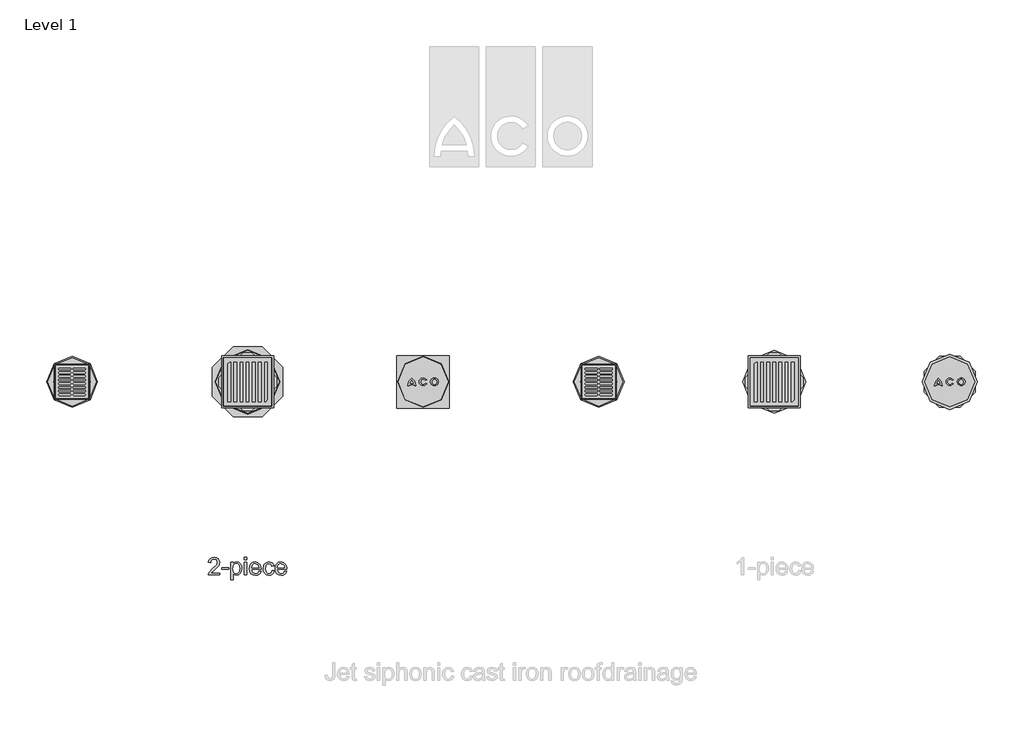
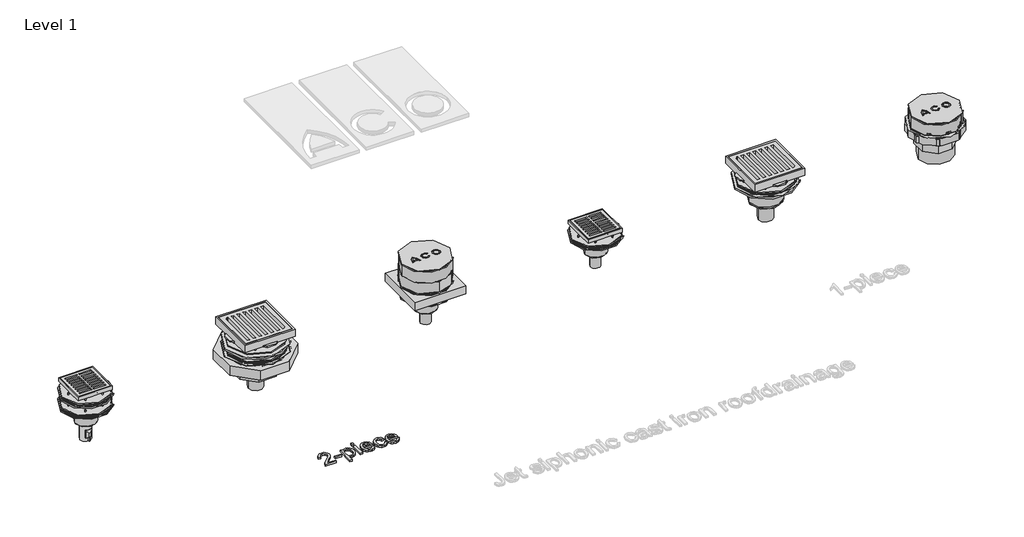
# One storey, part 1 of 2: 35 sanitary terminals, 2 unitary equipment elements, 1 proxy.
"""IFC4 building model written with IfcOpenShell, lengths in millimetres."""

from ifc_helpers import new_model, si_unit, origin, origin_with_axes, place, context, project, spatial, polyline, outline, extrude, transform, mapped, element, save
from components import std_ecaa86e3, dn50_1aebd825, std_82fbe6ac, std_e8784c35, std_f6b0b17c, std_5ca6e648, std_9cb41771, std_nested_059c46f9, std_nested_134ac697, std_nested_9174bdc3, std_nested_e6102d04, std_nested_2427ce80, std_nested_6056e155, std_nested_ca8b4cce, std_nested_2ed47152, std_nested_3392732c, std_nested_2f0308f6, std_nested_7d449d44, std_nested_2c1d07d8, std_nested_8367c126

model = new_model("IFC4")

# Units and contexts
model_context = context("Model", 3, world=origin())
ifc_project = project(units=[si_unit("LENGTHUNIT", "METRE", prefix="MILLI")], contexts=[model_context])

# Site, building, storey
site = spatial("IfcSite", under=ifc_project)
building = spatial("IfcBuilding", under=site)
storey = spatial("IfcBuildingStorey", under=building, Name="Level 1", Elevation=0.0)

# Proxy
placement = place(None, origin())
element("IfcBuildingElementProxy", 1, Name="100mm ACO", ObjectType="100mm ACO", at=placement, inside=storey, context=model_context, shape_type="SweptSolid", body=[
    extrude(outline(polyline([(-533.3333333, -100.0), (-600.0, -100.0), (-594.0393519, -84.4039352), (-572.0196759, -62.7893519), (-554.2534722, -45.4571759), (-548.2855903, -36.4293981), (-546.2962963, -27.34375), (-551.7216435, -14.380787), (-565.4224537, -9.2592593), (-579.4560185, -14.3663194), (-583.7239583, -20.7356771), (-585.1851852, -29.6296296), (-598.1481481, -28.2407407), (-595.0086806, -16.1385995), (-587.962963, -7.2627315), (-577.7488426, -1.8156829), (-565.1041667, 0.0), (-551.7469618, -2.0869502), (-541.7100694, -8.3478009), (-535.4275174, -17.5600405), (-533.3333333, -28.5011574), (-535.083912, -38.4042245), (-540.3356481, -48.4375), (-567.7662037, -75.9548611), (-583.3333333, -90.7407407), (-533.3333333, -90.7407407), (-533.3333333, -100.0)])), origin_with_axes(), (0.0, 0.0, 1.0), 10.0),
    extrude(outline(polyline([(-483.3333333, -66.6666667), (-522.2222222, -66.6666667), (-522.2222222, -57.4074074), (-483.3333333, -57.4074074), (-483.3333333, -66.6666667)])), origin_with_axes(), (0.0, 0.0, 1.0), 10.0),
    extrude(outline(polyline([(-457.2771991, -36.4872685), (-448.8208912, -28.5662616), (-437.1527778, -25.9259259), (-424.8263889, -28.515625), (-415.3935185, -36.2847222), (-409.4039352, -48.2132523), (-407.4074074, -63.28125), (-409.6643519, -79.1702836), (-416.4351852, -91.4207176), (-426.490162, -99.2440683), (-438.599537, -101.8518519), (-448.9728009, -99.7251157), (-457.0601852, -93.3449074), (-457.4074074, -127.7777778), (-470.3703704, -127.7777778), (-470.3703704, -27.7777778), (-457.4074074, -27.7777778), (-457.2771991, -36.4872685)]), holes=[polyline([(-440.0173611, -92.5925926), (-432.244647, -90.766059), (-425.9403935, -85.2864583), (-421.7628762, -76.1899595), (-420.3703704, -63.5127315), (-421.7122396, -51.4359086), (-425.7378472, -42.5202546), (-431.854022, -37.0189525), (-439.4675926, -35.1851852), (-447.3488137, -37.2287326), (-453.6892361, -43.359375), (-457.8667535, -52.7452257), (-459.2592593, -64.5543981), (-457.9246238, -76.66739), (-453.9207176, -85.4600694), (-447.7756076, -90.8094618), (-440.0173611, -92.5925926)])]), origin_with_axes(), (0.0, 0.0, 1.0), 10.0),
    extrude(outline(polyline([(-379.6296296, -100.0), (-392.5925926, -100.0), (-392.5925926, -27.7777778), (-379.6296296, -27.7777778), (-379.6296296, -100.0)])), origin_with_axes(), (0.0, 0.0, 1.0), 10.0),
    extrude(outline(polyline([(-379.6296296, -12.962963), (-392.5925926, -12.962963), (-392.5925926, 0.0), (-379.6296296, 0.0), (-379.6296296, -12.962963)])), origin_with_axes(), (0.0, 0.0, 1.0), 10.0),
    extrude(outline(polyline([(-298.1481481, -66.6666667), (-351.8518519, -66.6666667), (-349.7793692, -77.7922454), (-345.0665509, -85.9375), (-338.2848669, -90.9288194), (-330.005787, -92.5925926), (-318.3304398, -88.9033565), (-311.1111111, -77.7777778), (-298.1481481, -79.2824074), (-302.5245949, -88.9033565), (-309.4618056, -96.0069444), (-318.7065972, -100.390625), (-330.005787, -101.8518519), (-344.5927373, -99.3453414), (-355.5989583, -91.8258102), (-362.5108507, -79.9660012), (-364.8148148, -64.4386574), (-362.5940394, -48.900463), (-355.931713, -36.6030093), (-345.2329282, -28.5951968), (-330.9027778, -25.9259259), (-315.6828704, -29.3836806), (-303.2552083, -41.1603009), (-299.4249132, -51.6963252), (-298.1481481, -66.6666667)]), holes=[polyline([(-311.1111111, -57.4074074), (-313.1944444, -47.2511574), (-317.9398148, -40.3935185), (-331.2210648, -35.1851852), (-339.0769676, -36.7332176), (-345.3993056, -41.3773148), (-351.8518519, -57.4074074), (-311.1111111, -57.4074074)])]), origin_with_axes(), (0.0, 0.0, 1.0), 10.0),
    extrude(outline(polyline([(-222.2222222, -75.5497685), (-226.2514468, -87.3553241), (-233.4201389, -95.5150463), (-242.7445023, -100.2676505), (-253.2407407, -101.8518519), (-267.5564236, -99.2621528), (-278.2118056, -91.4930556), (-284.8307292, -79.4487847), (-287.037037, -64.0335648), (-282.0023148, -41.3483796), (-269.4010417, -29.3836806), (-253.5011574, -25.9259259), (-234.0422454, -31.5827546), (-227.5065104, -38.566985), (-224.0740741, -48.2060185), (-237.037037, -50.0), (-242.9398148, -38.9033565), (-253.3564815, -35.1851852), (-262.3119213, -37.0695891), (-268.8078704, -42.7228009), (-272.7575231, -51.7541956), (-274.0740741, -63.7731481), (-272.7539063, -76.0018808), (-268.7934028, -85.083912), (-262.3444734, -90.7154225), (-253.5590278, -92.5925926), (-240.9577546, -87.962963), (-235.1851852, -74.0740741), (-222.2222222, -75.5497685)])), origin_with_axes(), (0.0, 0.0, 1.0), 10.0),
    extrude(outline(polyline([(-151.8518519, -66.6666667), (-205.5555556, -66.6666667), (-203.4830729, -77.7922454), (-198.7702546, -85.9375), (-191.9885706, -90.9288194), (-183.7094907, -92.5925926), (-172.0341435, -88.9033565), (-164.8148148, -77.7777778), (-151.8518519, -79.2824074), (-156.2282986, -88.9033565), (-163.1655093, -96.0069444), (-172.4103009, -100.390625), (-183.7094907, -101.8518519), (-198.296441, -99.3453414), (-209.302662, -91.8258102), (-216.2145544, -79.9660012), (-218.5185185, -64.4386574), (-216.2977431, -48.900463), (-209.6354167, -36.6030093), (-198.9366319, -28.5951968), (-184.6064815, -25.9259259), (-169.3865741, -29.3836806), (-156.958912, -41.1603009), (-153.1286169, -51.6963252), (-151.8518519, -66.6666667)]), holes=[polyline([(-164.8148148, -57.4074074), (-166.8981481, -47.2511574), (-171.6435185, -40.3935185), (-184.9247685, -35.1851852), (-192.7806713, -36.7332176), (-199.1030093, -41.3773148), (-205.5555556, -57.4074074), (-164.8148148, -57.4074074)])]), origin_with_axes(), (0.0, 0.0, 1.0), 10.0),
])

# Sanitary terminals
std_shape = std_ecaa86e3(model_context)
element("IfcSanitaryTerminal", 2, ObjectType="PF_GEN_UN_double body with gravel trap Passavant Jet_ACO : DN50", at=placement, inside=storey, context=model_context, shape_type="MappedRepresentation", body=[
    mapped(std_shape, transform((625.0, 1000.0, 0.0), x_axis=(1.0, 0.0, 0.0), y_axis=(0.0, 1.0, 0.0), z_axis=(0.0, 0.0, 1.0))),
])
dn50_shape = dn50_1aebd825(model_context)
element("IfcSanitaryTerminal", 3, ObjectType="PF_GEN_UN_single body with gravel trap Passavant Jet_ACO : DN50", at=placement, inside=storey, context=model_context, shape_type="MappedRepresentation", body=[
    mapped(dn50_shape, transform((3625.0, 1000.0, 0.0), x_axis=(1.0, 0.0, 0.0), y_axis=(0.0, 1.0, 0.0), z_axis=(0.0, 0.0, 1.0))),
])
std_2_shape = std_82fbe6ac(model_context)
element("IfcSanitaryTerminal", 4, ObjectType="PF_GEN_UN_single body with grating DN50 Passavant Jet_ACO : std", at=placement, inside=storey, context=model_context, shape_type="MappedRepresentation", body=[
    mapped(std_2_shape, transform((1625.0, 1000.0, 0.0), x_axis=(1.0, 0.0, 0.0), y_axis=(0.0, 1.0, 0.0), z_axis=(0.0, 0.0, 1.0))),
])
std_3_shape = std_e8784c35(model_context)
element("IfcSanitaryTerminal", 5, ObjectType="PF_GEN_UN_single body with grating DN80 Passavant Jet_ACO : std", at=placement, inside=storey, context=model_context, shape_type="MappedRepresentation", body=[
    mapped(std_3_shape, transform((2625.0, 1000.0, 0.0), x_axis=(1.0, 0.0, 0.0), y_axis=(0.0, 1.0, 0.0), z_axis=(0.0, 0.0, 1.0))),
])
std_4_shape = std_f6b0b17c(model_context)
element("IfcSanitaryTerminal", 6, ObjectType="ZZZ_do_not_use_PF_CI_WPB_top frame with grating for Passavant Jet_ACO : std", at=placement, inside=storey, context=model_context, shape_type="MappedRepresentation", body=[
    mapped(std_4_shape, transform((1625.0, 1000.0, 15.5), x_axis=(1.0, 0.0, 0.0), y_axis=(0.0, 1.0, 0.0), z_axis=(0.0, 0.0, 1.0))),
])
std_5_shape = std_5ca6e648(model_context)
element("IfcSanitaryTerminal", 7, ObjectType="ZZZ_do_not_use_PF_CI_WPB_top frame with grating for Passavant Jet_ACO : std", at=placement, inside=storey, context=model_context, shape_type="MappedRepresentation", body=[
    mapped(std_5_shape, transform((-375.0, 1000.0, 65.5), x_axis=(1.0, 0.0, 0.0), y_axis=(0.0, 1.0, 0.0), z_axis=(0.0, 0.0, 1.0))),
])
element("IfcSanitaryTerminal", 8, ObjectType="ZZZ_do_not_use_PF_CI_WPB_top frame with grating for Passavant Jet_ACO : std", at=placement, inside=storey, context=model_context, shape_type="MappedRepresentation", body=[
    mapped(std_5_shape, transform((2625.0, 1000.0, 15.5), x_axis=(1.0, 0.0, 0.0), y_axis=(0.0, 1.0, 0.0), z_axis=(0.0, 0.0, 1.0))),
])
element("IfcSanitaryTerminal", 9, ObjectType="ZZZ_do_not_use_PF_CI_WPB_top frame with grating for Passavant Jet_ACO : std", at=placement, inside=storey, context=model_context, shape_type="MappedRepresentation", body=[
    mapped(std_4_shape, transform((-1375.0, 1000.0, 85.5), x_axis=(1.0, 0.0, 0.0), y_axis=(0.0, 1.0, 0.0), z_axis=(0.0, 0.0, 1.0))),
])
element("IfcSanitaryTerminal", 10, ObjectType="PF_GEN_UN_double body with grating DN50 Passavant Jet_ACO : std", at=placement, inside=storey, context=model_context, shape_type="MappedRepresentation", body=[
    mapped(std_shape, transform((-1375.0, 1000.0, 0.0), x_axis=(1.0, 0.0, 0.0), y_axis=(0.0, 1.0, 0.0), z_axis=(0.0, 0.0, 1.0))),
])
std_6_shape = std_9cb41771(model_context)
element("IfcSanitaryTerminal", 11, ObjectType="PF_GEN_UN_double body with grating DN80 Passavant Jet_ACO : std", at=placement, inside=storey, context=model_context, shape_type="MappedRepresentation", body=[
    mapped(std_6_shape, transform((-375.0, 1000.0, 0.0), x_axis=(1.0, 0.0, 0.0), y_axis=(0.0, 1.0, 0.0), z_axis=(0.0, 0.0, 1.0))),
])
std_nested_shape = std_nested_059c46f9(model_context)
element("IfcSanitaryTerminal", 12, ObjectType="ZZZ_do not use_PF_CI_WPB_lower section for Passavant Jet_ACO : std (nested)", at=placement, inside=storey, context=model_context, shape_type="MappedRepresentation", body=[
    mapped(std_nested_shape, transform((-1375.0, 1000.0, 0.0), x_axis=(1.0, 0.0, 0.0), y_axis=(0.0, 1.0, 0.0), z_axis=(0.0, 0.0, 1.0))),
])
element("IfcSanitaryTerminal", 13, ObjectType="ZZZ_do not use_PF_CI_WPB_lower section for Passavant Jet_ACO : std (nested)", at=placement, inside=storey, context=model_context, shape_type="MappedRepresentation", body=[
    mapped(std_nested_shape, transform((3625.0, 1000.0, 0.0), x_axis=(1.0, 0.0, 0.0), y_axis=(0.0, 1.0, 0.0), z_axis=(0.0, 0.0, 1.0))),
])
std_nested_2_shape = std_nested_134ac697(model_context)
element("IfcSanitaryTerminal", 14, ObjectType="ZZZ_do not use_PF_ST_WPB_levelling height for Passavant Jet_ACO : std (nested)", at=placement, inside=storey, context=model_context, shape_type="MappedRepresentation", body=[
    mapped(std_nested_2_shape, transform((625.0, 1000.0, 75.0), x_axis=(0.0, 1.0, 0.0), y_axis=(-1.0, 0.0, 0.0), z_axis=(0.0, 0.0, 1.0))),
])
std_nested_3_shape = std_nested_9174bdc3(model_context)
element("IfcSanitaryTerminal", 15, ObjectType="ZZZ_do not use_PF_ST_WPB_gravel trap cover for Passavant Jet_ACO : std (nested)", at=placement, inside=storey, context=model_context, shape_type="MappedRepresentation", body=[
    mapped(std_nested_3_shape, transform((625.0, 1000.0, 140.0), x_axis=(1.0, 0.0, 0.0), y_axis=(0.0, 1.0, 0.0), z_axis=(0.0, 0.0, 1.0))),
])
element("IfcSanitaryTerminal", 16, ObjectType="ZZZ_do not use_PF_ST_WPB_gravel trap cover for Passavant Jet_ACO : std (nested)", at=placement, inside=storey, context=model_context, shape_type="MappedRepresentation", body=[
    mapped(std_nested_3_shape, transform((3625.0, 1000.0, 5.0), x_axis=(1.0, 0.0, 0.0), y_axis=(0.0, 1.0, 0.0), z_axis=(0.0, 0.0, 1.0))),
])
std_nested_4_shape = std_nested_e6102d04(model_context)
element("IfcSanitaryTerminal", 17, ObjectType="ZZZ_do not use_PF_CG_WPB_insulating body lower section for Passavant Jet_ACO : std (nested)", at=placement, inside=storey, context=model_context, shape_type="MappedRepresentation", body=[
    mapped(std_nested_4_shape, transform((3625.0, 1000.0, -5.0), x_axis=(1.0, 0.0, 0.0), y_axis=(0.0, 1.0, 0.0), z_axis=(0.0, 0.0, 1.0))),
])
std_nested_5_shape = std_nested_2427ce80(model_context)
element("IfcSanitaryTerminal", 18, ObjectType="ZZZ_do not use_PF_CG_WPB_compensation element for Passavant Jet_ACO : std (nested)", at=placement, inside=storey, context=model_context, shape_type="MappedRepresentation", body=[
    mapped(std_nested_5_shape, transform((625.0, 1000.0, 15.5), x_axis=(1.0, 0.0, 0.0), y_axis=(0.0, 1.0, 0.0), z_axis=(0.0, 0.0, 1.0))),
])
std_nested_6_shape = std_nested_6056e155(model_context)
element("IfcSanitaryTerminal", 19, ObjectType="ZZZ_do not use_PF_CI_WPB_upper part for Passavant Jet_ACO : std (nested)", at=placement, inside=storey, context=model_context, shape_type="MappedRepresentation", body=[
    mapped(std_nested_6_shape, transform((-1375.0, 1000.0, 70.0), x_axis=(1.0, 0.0, 0.0), y_axis=(0.0, 1.0, 0.0), z_axis=(0.0, 0.0, 1.0))),
])
element("IfcSanitaryTerminal", 20, ObjectType="ZZZ_do not use_PF_CI_WPB_upper part for Passavant Jet_ACO : std (nested)", at=placement, inside=storey, context=model_context, shape_type="MappedRepresentation", body=[
    mapped(std_nested_6_shape, transform((625.0, 1000.0, 70.0), x_axis=(1.0, 0.0, 0.0), y_axis=(0.0, 1.0, 0.0), z_axis=(0.0, 0.0, 1.0))),
])
std_nested_7_shape = std_nested_ca8b4cce(model_context)
element("IfcSanitaryTerminal", 21, ObjectType="ZZZ_do not use_PF_CI_WPB_upper part for Passavant Jet_ACO : std (nested)", at=placement, inside=storey, context=model_context, shape_type="MappedRepresentation", body=[
    mapped(std_nested_7_shape, transform((-375.0, 1000.0, 50.0), x_axis=(1.0, 0.0, 0.0), y_axis=(0.0, 1.0, 0.0), z_axis=(0.0, 0.0, 1.0))),
])
std_nested_8_shape = std_nested_2ed47152(model_context)
element("IfcSanitaryTerminal", 22, ObjectType="ZZZ_do not use_PF_ST_WPB_pilot tube for Passavant Jet_ACO : std (nested)", at=placement, inside=storey, context=model_context, shape_type="MappedRepresentation", body=[
    mapped(std_nested_8_shape, transform((625.0, 1000.0, 85.5), x_axis=(0.0, 1.0, 0.0), y_axis=(-1.0, 0.0, 0.0), z_axis=(0.0, 0.0, 1.0))),
])
std_nested_9_shape = std_nested_3392732c(model_context)
element("IfcSanitaryTerminal", 23, ObjectType="ZZZ_do not use_PF_CG_WPB_insulating body lower section for Passavant Jet_ACO : std (nested)", at=placement, inside=storey, context=model_context, shape_type="MappedRepresentation", body=[
    mapped(std_nested_9_shape, transform((-375.0, 1000.0, 0.0), x_axis=(1.0, 0.0, 0.0), y_axis=(0.0, 1.0, 0.0), z_axis=(0.0, 0.0, 1.0))),
])
std_nested_10_shape = std_nested_2f0308f6(model_context)
element("IfcSanitaryTerminal", 24, ObjectType="ZZZ_do not use_PF_GEN_WPB_flange seal for Passavant Jet_ACO : std (nested)", at=placement, inside=storey, context=model_context, shape_type="MappedRepresentation", body=[
    mapped(std_nested_10_shape, transform((-1375.0, 1000.0, 0.0), x_axis=(1.0, 0.0, 0.0), y_axis=(0.0, 1.0, 0.0), z_axis=(0.0, 0.0, 1.0))),
])
element("IfcSanitaryTerminal", 25, ObjectType="ZZZ_do not use_PF_GEN_WPB_flange seal for Passavant Jet_ACO : std (nested)", at=placement, inside=storey, context=model_context, shape_type="MappedRepresentation", body=[
    mapped(std_nested_10_shape, transform((-1375.0, 1000.0, 70.0), x_axis=(1.0, 0.0, 0.0), y_axis=(0.0, 1.0, 0.0), z_axis=(0.0, 0.0, 1.0))),
])
element("IfcSanitaryTerminal", 26, ObjectType="ZZZ_do not use_PF_GEN_WPB_flange seal for Passavant Jet_ACO : std (nested)", at=placement, inside=storey, context=model_context, shape_type="MappedRepresentation", body=[
    mapped(std_nested_10_shape, transform((-375.0, 1000.0, 50.0), x_axis=(1.0, 0.0, 0.0), y_axis=(0.0, 1.0, 0.0), z_axis=(0.0, 0.0, 1.0))),
])
element("IfcSanitaryTerminal", 27, ObjectType="ZZZ_do not use_PF_GEN_WPB_flange seal for Passavant Jet_ACO : std (nested)", at=placement, inside=storey, context=model_context, shape_type="MappedRepresentation", body=[
    mapped(std_nested_10_shape, transform((625.0, 1000.0, 0.0), x_axis=(1.0, 0.0, 0.0), y_axis=(0.0, 1.0, 0.0), z_axis=(0.0, 0.0, 1.0))),
])
element("IfcSanitaryTerminal", 28, ObjectType="ZZZ_do not use_PF_GEN_WPB_flange seal for Passavant Jet_ACO : std (nested)", at=placement, inside=storey, context=model_context, shape_type="MappedRepresentation", body=[
    mapped(std_nested_10_shape, transform((625.0, 1000.0, 70.0), x_axis=(1.0, 0.0, 0.0), y_axis=(0.0, 1.0, 0.0), z_axis=(0.0, 0.0, 1.0))),
])
element("IfcSanitaryTerminal", 29, ObjectType="ZZZ_do not use_PF_GEN_WPB_flange seal for Passavant Jet_ACO : std (nested)", at=placement, inside=storey, context=model_context, shape_type="MappedRepresentation", body=[
    mapped(std_nested_10_shape, transform((1625.0, 1000.0, 0.0), x_axis=(1.0, 0.0, 0.0), y_axis=(0.0, 1.0, 0.0), z_axis=(0.0, 0.0, 1.0))),
])
element("IfcSanitaryTerminal", 30, ObjectType="ZZZ_do not use_PF_GEN_WPB_flange seal for Passavant Jet_ACO : std (nested)", at=placement, inside=storey, context=model_context, shape_type="MappedRepresentation", body=[
    mapped(std_nested_10_shape, transform((3625.0, 1000.0, 0.0), x_axis=(1.0, 0.0, 0.0), y_axis=(0.0, 1.0, 0.0), z_axis=(0.0, 0.0, 1.0))),
])
std_nested_11_shape = std_nested_7d449d44(model_context)
element("IfcSanitaryTerminal", 31, ObjectType="ZZZ_do not use_PF_GEN_WPB_flange seal for Passavant Jet_ACO : std (nested)", at=placement, inside=storey, context=model_context, shape_type="MappedRepresentation", body=[
    mapped(std_nested_11_shape, transform((-375.0, 1000.0, 0.0), x_axis=(1.0, 0.0, 0.0), y_axis=(0.0, 1.0, 0.0), z_axis=(0.0, 0.0, 1.0))),
])
element("IfcSanitaryTerminal", 32, ObjectType="ZZZ_do not use_PF_GEN_WPB_flange seal for Passavant Jet_ACO : std (nested)", at=placement, inside=storey, context=model_context, shape_type="MappedRepresentation", body=[
    mapped(std_nested_11_shape, transform((2625.0, 1000.0, 0.0), x_axis=(1.0, 0.0, 0.0), y_axis=(0.0, 1.0, 0.0), z_axis=(0.0, 0.0, 1.0))),
])
std_nested_12_shape = std_nested_2c1d07d8(model_context)
element("IfcSanitaryTerminal", 33, ObjectType="ZZZ_do not use_PF_CI_WPB_lower section for Passavant Jet_ACO : std (nested)", at=placement, inside=storey, context=model_context, shape_type="MappedRepresentation", body=[
    mapped(std_nested_12_shape, transform((-375.0, 1000.0, 0.0), x_axis=(1.0, 0.0, 0.0), y_axis=(0.0, 1.0, 0.0), z_axis=(0.0, 0.0, 1.0))),
])
element("IfcSanitaryTerminal", 34, ObjectType="ZZZ_do not use_PF_CI_WPB_lower section for Passavant Jet_ACO : std (nested)", at=placement, inside=storey, context=model_context, shape_type="MappedRepresentation", body=[
    mapped(std_nested_12_shape, transform((2625.0, 1000.0, 0.0), x_axis=(1.0, 0.0, 0.0), y_axis=(0.0, 1.0, 0.0), z_axis=(0.0, 0.0, 1.0))),
])
element("IfcSanitaryTerminal", 35, ObjectType="ZZZ_do not use_PF_CI_WPB_lower section for Passavant Jet_ACO : std (nested)", at=placement, inside=storey, context=model_context, shape_type="MappedRepresentation", body=[
    mapped(std_nested_shape, transform((625.0, 1000.0, 0.0), x_axis=(1.0, 0.0, 0.0), y_axis=(0.0, 1.0, 0.0), z_axis=(0.0, 0.0, 1.0))),
])
element("IfcSanitaryTerminal", 36, ObjectType="ZZZ_do not use_PF_CI_WPB_lower section for Passavant Jet_ACO : std (nested)", at=placement, inside=storey, context=model_context, shape_type="MappedRepresentation", body=[
    mapped(std_nested_shape, transform((1625.0, 1000.0, 0.0), x_axis=(1.0, 0.0, 0.0), y_axis=(0.0, 1.0, 0.0), z_axis=(0.0, 0.0, 1.0))),
])

# Unitary equipment
std_nested_13_shape = std_nested_8367c126(model_context)
element("IfcUnitaryEquipment", 37, ObjectType="ZZZ_do not use_ME_GEN_WPB_flat roof heating for Passavant Jet_ACO : std (nested)", at=placement, inside=storey, context=model_context, shape_type="MappedRepresentation", body=[
    mapped(std_nested_13_shape, transform((-1375.0, 1000.0, -218.5), x_axis=(-1.0, 0.0, 0.0), y_axis=(0.0, 1.0, 0.0), z_axis=(0.0, 0.0, -1.0))),
])
element("IfcUnitaryEquipment", 38, ObjectType="ZZZ_do not use_ME_GEN_WPB_flat roof heating for Passavant Jet_ACO : std (nested)", at=placement, inside=storey, context=model_context, shape_type="MappedRepresentation", body=[
    mapped(std_nested_13_shape, transform((3625.0, 1000.0, -218.5), x_axis=(-1.0, 0.0, 0.0), y_axis=(0.0, 1.0, 0.0), z_axis=(0.0, 0.0, -1.0))),
])

save(model, "model.ifc")
